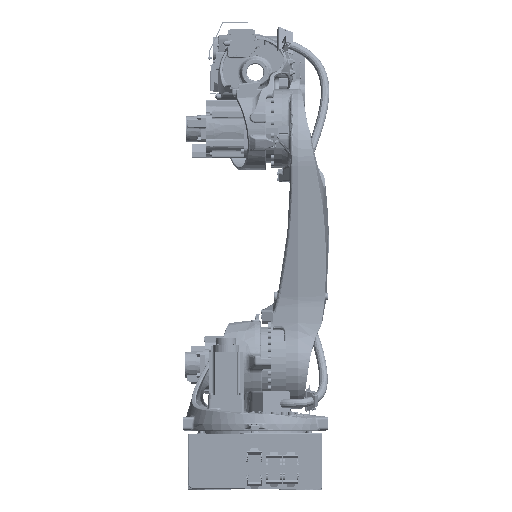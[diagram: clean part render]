
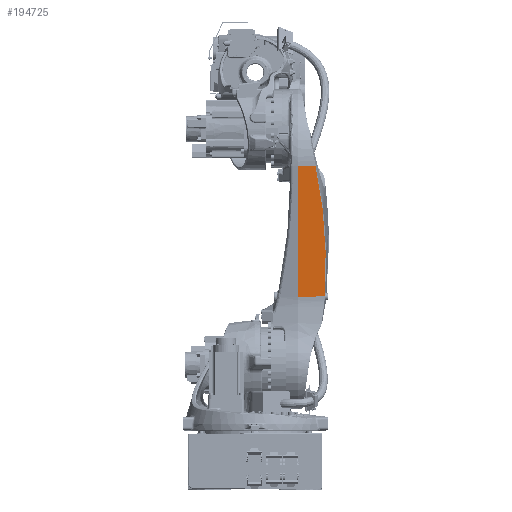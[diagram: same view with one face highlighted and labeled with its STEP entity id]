
A CAD part, front view. The second image highlights one B-rep face of the part: STEP entity #194725.
In plain terms, the highlighted planar face has unit normal (0.259, -0.951, -0.168).
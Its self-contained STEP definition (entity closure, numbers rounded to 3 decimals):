
#192192=CARTESIAN_POINT('Vertex',(223.972,-202.195,743.314)) ;
#192265=CARTESIAN_POINT('Control Point',(223.972,-202.195,743.314)) ;
#192266=CARTESIAN_POINT('Control Point',(230.66,-195.077,713.267)) ;
#192267=CARTESIAN_POINT('Control Point',(236.605,-188.127,683.023)) ;
#192268=CARTESIAN_POINT('Control Point',(241.816,-181.347,652.613)) ;
#192269=CARTESIAN_POINT('Control Point',(254.189,-163.128,568.38)) ;
#192270=CARTESIAN_POINT('Control Point',(261.115,-146.237,483.27)) ;
#192271=CARTESIAN_POINT('Control Point',(263.36,-136.022,428.807)) ;
#192272=CARTESIAN_POINT('Control Point',(263.497,-124.151,361.69)) ;
#192273=CARTESIAN_POINT('Control Point',(260.463,-113.143,294.578)) ;
#192274=CARTESIAN_POINT('Control Point',(259.785,-111.115,282.035)) ;
#192275=CARTESIAN_POINT('Control Point',(258.998,-109.118,269.494)) ;
#192276=CARTESIAN_POINT('Control Point',(258.101,-107.152,256.958)) ;
#192277=CARTESIAN_POINT('Vertex',(258.101,-107.152,256.958)) ;
#194685=CARTESIAN_POINT('Vertex',(160.,-219.076,740.337)) ;
#194688=CARTESIAN_POINT('Line Origine',(230.,-200.605,743.594)) ;
#194702=CARTESIAN_POINT('Axis2P3D Location',(160.,-174.538,487.75)) ;
#194707=CARTESIAN_POINT('Line Origine',(160.,-176.057,496.365)) ;
#194711=CARTESIAN_POINT('Vertex',(160.,-133.038,252.394)) ;
#194714=CARTESIAN_POINT('Line Origine',(230.,-114.567,255.651)) ;
#194689=DIRECTION('Vector Direction',(-0.966,-0.255,-0.045)) ;
#194703=DIRECTION('Axis2P3D Direction',(-0.259,0.951,0.168)) ;
#194704=DIRECTION('Axis2P3D XDirection',(0.,0.174,-0.985)) ;
#194708=DIRECTION('Vector Direction',(0.,0.174,-0.985)) ;
#194715=DIRECTION('Vector Direction',(-0.966,-0.255,-0.045)) ;
#194705=AXIS2_PLACEMENT_3D('Plane Axis2P3D',#194702,#194703,#194704) ;
#194720=ORIENTED_EDGE('',*,*,#192279,.F.) ;
#194721=ORIENTED_EDGE('',*,*,#194692,.F.) ;
#194722=ORIENTED_EDGE('',*,*,#194713,.F.) ;
#194723=ORIENTED_EDGE('',*,*,#194718,.T.) ;
#194690=VECTOR('Line Direction',#194689,1.) ;
#194709=VECTOR('Line Direction',#194708,1.) ;
#194716=VECTOR('Line Direction',#194715,1.) ;
#194725=ADVANCED_FACE('J2',(#194724),#194706,.F.) ;
#192264=B_SPLINE_CURVE_WITH_KNOTS('',5,(#192265,#192266,#192267,#192268,#192269,#192270,#192271,#192272,#192273,#192274,#192275,#192276),.UNSPECIFIED.,.F.,.U.,(6,3,3,6),(332.105,554.557,945.456,1035.322),.UNSPECIFIED.) ;
#192279=EDGE_CURVE('',#192193,#192278,#192264,.T.) ;
#194692=EDGE_CURVE('',#194686,#192193,#194691,.F.) ;
#194713=EDGE_CURVE('',#194712,#194686,#194710,.F.) ;
#194718=EDGE_CURVE('',#194712,#192278,#194717,.F.) ;
#194719=EDGE_LOOP('',(#194720,#194721,#194722,#194723)) ;
#194724=FACE_OUTER_BOUND('',#194719,.T.) ;
#194691=LINE('Line',#194688,#194690) ;
#194710=LINE('Line',#194707,#194709) ;
#194717=LINE('Line',#194714,#194716) ;
#194706=PLANE('',#194705) ;
#192193=VERTEX_POINT('',#192192) ;
#192278=VERTEX_POINT('',#192277) ;
#194686=VERTEX_POINT('',#194685) ;
#194712=VERTEX_POINT('',#194711) ;
